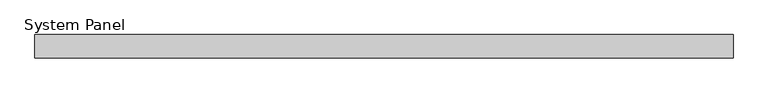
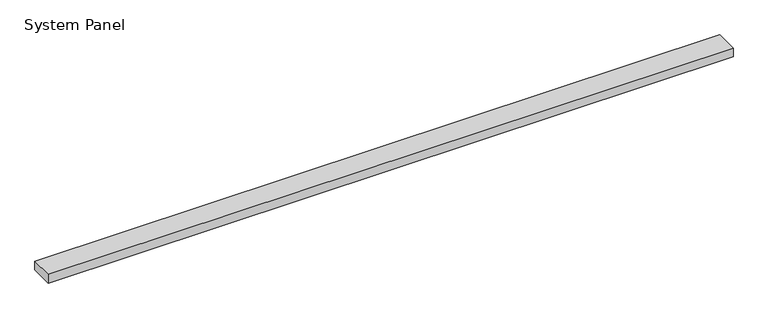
"""IFC4 building model written with IfcOpenShell, lengths in millimetres: plate geometry, System Panel : Equitilt 200mm Horizontal - Plain RHEA - EPS-FR."""

from ifc_helpers import new_model, si_unit, origin, origin_with_axes, place, context, project, spatial, polyline, outline, extrude, source, transform, mapped, element, save


def system_panel_25ad28c7(model_context):
    return source(origin(), model_context, "Body", "SweptSolid", [
        extrude(outline(polyline([(2990.0, -200.0), (-2990.0, -200.0), (-2990.0, 0.0), (2990.0, 0.0), (2990.0, -200.0)])), origin_with_axes(), (0.0, 0.0, 1.0), 79.9704237),
    ])


if __name__ == "__main__":
    model = new_model("IFC4")
    model_context = context("Model", 3, world=origin())
    ifc_project = project(units=[si_unit("LENGTHUNIT", "METRE", prefix="MILLI")], contexts=[model_context])
    site = spatial("IfcSite", under=ifc_project)
    building = spatial("IfcBuilding", under=site)
    placement = place(None, origin())
    system_panel_shape = system_panel_25ad28c7(model_context)
    element("IfcPlate", 1, ObjectType="System Panel : Equitilt 200mm Horizontal - Plain RHEA - EPS-FR", at=placement, inside=building, context=model_context, shape_type="MappedRepresentation", body=[
        mapped(system_panel_shape, transform((0.0, 0.0, 0.0), x_axis=(1.0, 0.0, 0.0), y_axis=(0.0, 1.0, 0.0), z_axis=(0.0, 0.0, 1.0))),
    ])
    save(model, "model.ifc")
